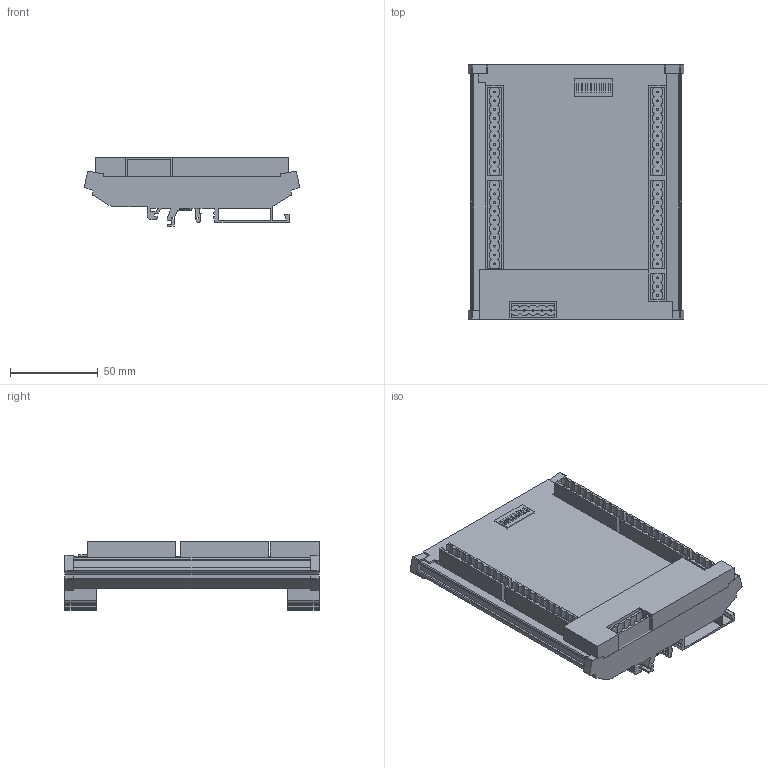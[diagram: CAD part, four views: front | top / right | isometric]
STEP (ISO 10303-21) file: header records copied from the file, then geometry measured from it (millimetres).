
FILE_DESCRIPTION(/* description */ (''),/* implementation_level */ '2;1');
FILE_NAME(/* name */ 'ZIO1616MT.stp',/* time_stamp */ '2019-10-15T09:52:16+08:00',/* author */ (''),/* organization */ (''),/* preprocessor_version */ 'ST-DEVELOPER v16.7',/* originating_system */ 'SIEMENS PLM Software NX 12.0',/* authorisation */ '');
FILE_SCHEMA (('AUTOMOTIVE_DESIGN { 1 0 10303 214 3 1 1 1 }'));
Length unit declared in the file: millimetre
Products named in the file (1): zmio - 2_stp
Bounding box: 122.83 x 145 x 39.26 mm (x, y, z)
Volume: 325985.8 mm3; surface area: 112432.6 mm2
Topology: 19 solids, 19 shells, 687 faces, 1827 edges, 1234 vertices
Faces by surface type: plane 442, cylinder 245
Full cylindrical faces by diameter (mm): 1 x48
Entity records: 21578 total; most frequent: CARTESIAN_POINT 3605, DIRECTION 3597, ORIENTED_EDGE 3462, EDGE_CURVE 1731, LINE 1241, VECTOR 1241, VERTEX_POINT 1186, AXIS2_PLACEMENT_3D 1178
